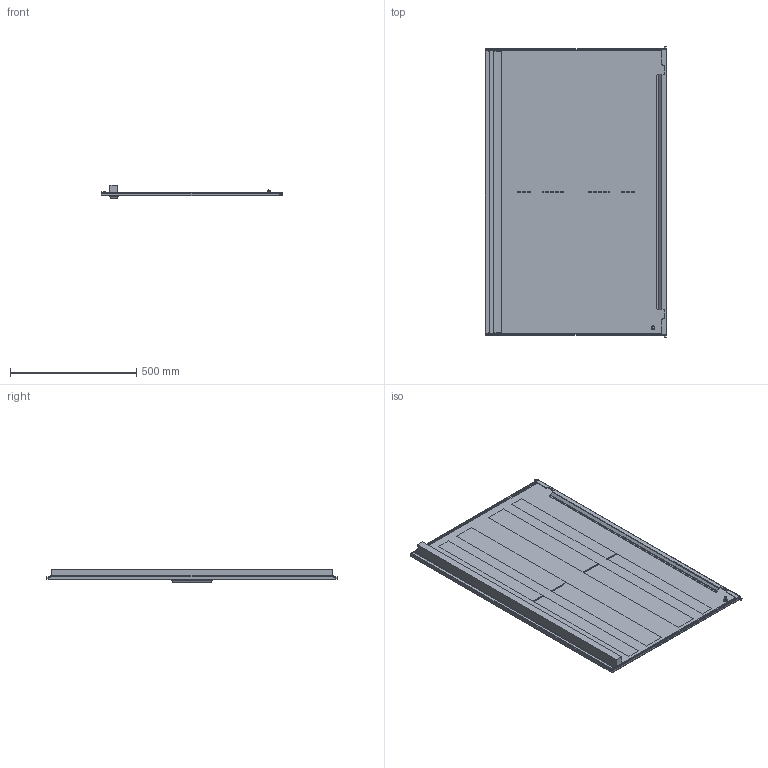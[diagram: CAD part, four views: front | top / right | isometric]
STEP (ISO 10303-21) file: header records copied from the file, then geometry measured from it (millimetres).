
FILE_DESCRIPTION (( 'STEP AP203' ), '1' );
FILE_NAME ('D 120.80 IP Äâåðü òåëåêîììóíèêàöèîííàÿ ïåðôîðèðîâàííàÿ.STEP', '2013-01-15T06:47:13', ( 'System' ), ( '' ), 'SwSTEP 2.0', 'SolidWorks 2012', '' );
FILE_SCHEMA (( 'CONFIG_CONTROL_DESIGN' ));
Length unit declared in the file: millimetre
Products named in the file (1): D 120.80 IP Äâåðü òåëåêîììóíèêàöèîííàÿ ïåðôîðèðîâàííàÿ
Bounding box: 718 x 1153.5 x 55 mm (x, y, z)
Volume: 2637928 mm3; surface area: 1939072.8 mm2
Topology: 5 solids, 5 shells, 281 faces, 694 edges, 410 vertices
Faces by surface type: cylinder 142, plane 91, sphere 24, cone 20, torus 4
Entity records: 8339 total; most frequent: DIRECTION 1552, CARTESIAN_POINT 1366, ORIENTED_EDGE 1348, EDGE_CURVE 674, AXIS2_PLACEMENT_3D 596, VERTEX_POINT 410, VECTOR 360, LINE 360
